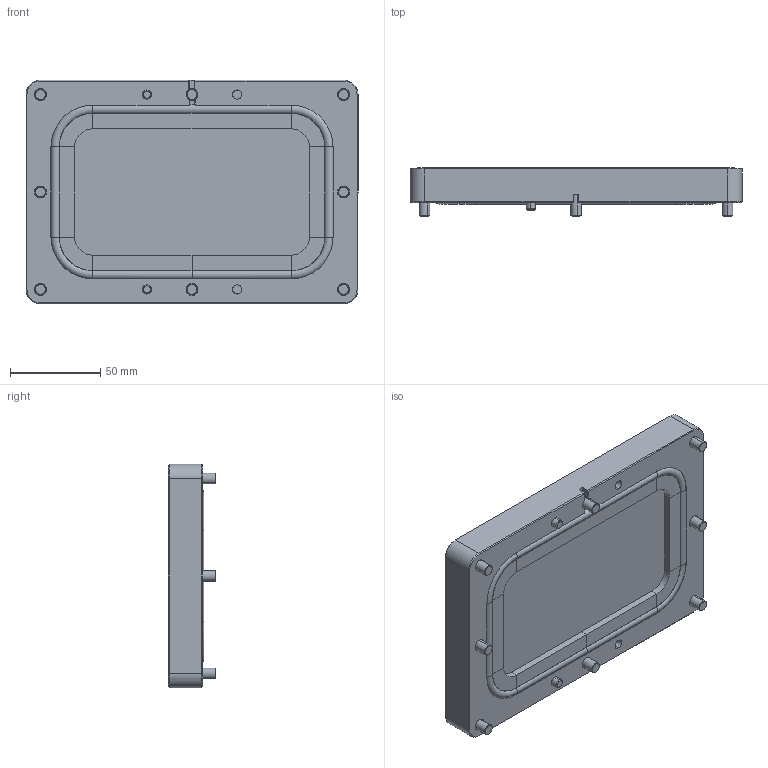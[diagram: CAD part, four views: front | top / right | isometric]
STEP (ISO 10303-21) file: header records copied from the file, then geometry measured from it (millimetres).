
FILE_DESCRIPTION (( 'STEP AP214' ), '1' );
FILE_NAME ('JKR1307-G-A-V-A-200503.STEP', '2020-05-03T06:10:12', ( '' ), ( '' ), 'SwSTEP 2.0', 'SolidWorks 2018', '' );
FILE_SCHEMA (( 'AUTOMOTIVE_DESIGN' ));
Length unit declared in the file: millimetre
Products named in the file (8): JKR1307-05A; JKR1307-04A; JKR1307-02A; COM-001-M6-20_ル遽; JKR1307-G-A-V-A-200503; JKR1307-01A; COM-005-5-10L; JKR1307-03A
Assembly tree (15 placements, depth 2):
  JKR1307-G-A-V-A-200503
    JKR1307-03A
    JKR1307-04A
    JKR1307-01A
    JKR1307-02A
    JKR1307-05A
    COM-005-5-10L  x2
    COM-001-M6-20_ル遽  x8
Bounding box: 184 x 26.4 x 124 mm (x, y, z)
Volume: 341095 mm3; surface area: 117335.1 mm2
Topology: 15 solids, 15 shells, 563 faces, 1252 edges, 733 vertices
Faces by surface type: cylinder 210, plane 189, cone 100, torus 64
Entity records: 12204 total; most frequent: DIRECTION 2191, CARTESIAN_POINT 2179, ORIENTED_EDGE 1856, EDGE_CURVE 928, AXIS2_PLACEMENT_3D 877, VERTEX_POINT 543, EDGE_LOOP 455, CIRCLE 444
